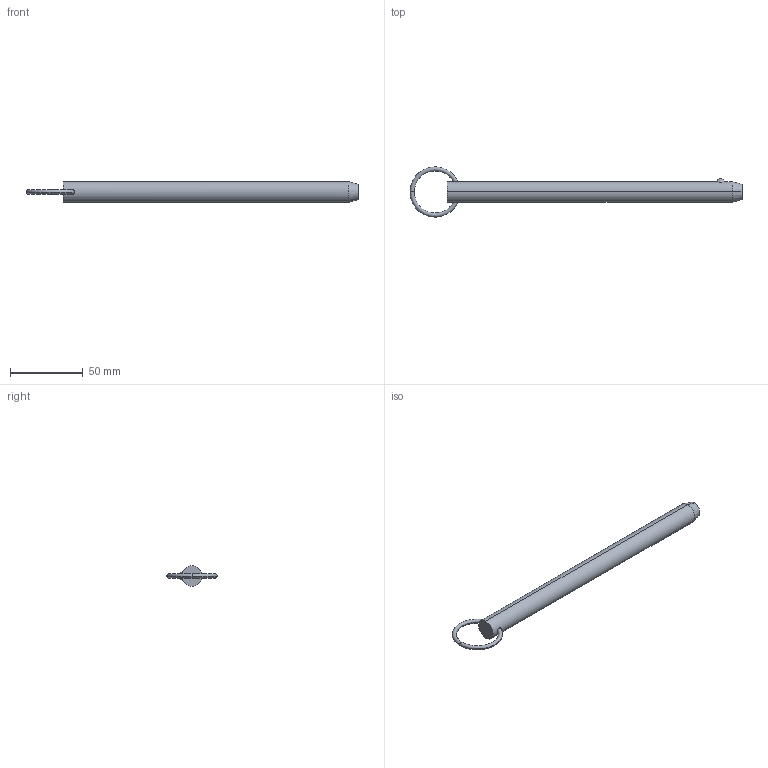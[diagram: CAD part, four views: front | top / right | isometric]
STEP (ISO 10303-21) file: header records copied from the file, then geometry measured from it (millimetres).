
FILE_DESCRIPTION (( 'STEP AP203' ), '1' );
FILE_NAME ('33010.W5670.step', '2024-11-01T10:41:07', ( '' ), ( '' ), 'SwSTEP 2.0', 'SolidWorks 2019', '' );
FILE_SCHEMA (( 'CONFIG_CONTROL_DESIGN' ));
Length unit declared in the file: millimetre
Products named in the file (3): Part2_33010.W5670; Part1_33010.W5670; 33010.W5670
Assembly tree (2 placements, depth 2):
  33010.W5670
    Part1_33010.W5670
    Part2_33010.W5670
Bounding box: 228.7 x 34.59 x 14.22 mm (x, y, z)
Volume: 32545.4 mm3; surface area: 10344.7 mm2
Topology: 2 solids, 2 shells, 16 faces, 31 edges, 18 vertices
Faces by surface type: torus 8, sphere 2, cone 2, cylinder 2, plane 2
Entity records: 875 total; most frequent: CARTESIAN_POINT 232, DIRECTION 88, ORIENTED_EDGE 62, AXIS2_PLACEMENT_3D 42, EDGE_CURVE 31, PERSON_AND_ORGANIZATION 26, CIRCLE 21, CALENDAR_DATE 19
